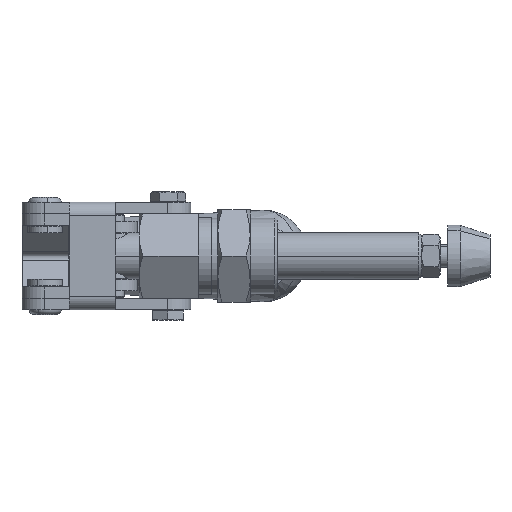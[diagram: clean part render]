
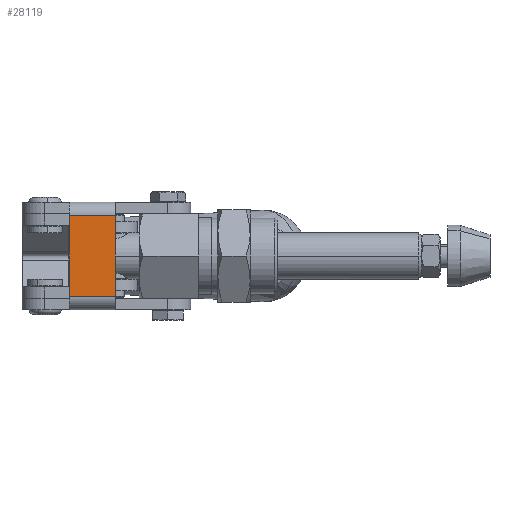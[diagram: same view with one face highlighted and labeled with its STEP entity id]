
A CAD part, front view. The second image highlights one B-rep face of the part: STEP entity #28119.
In plain terms, the highlighted planar face has unit normal (-0.007, -1, 0) as drawn and (0, -1, 0) by its records, which use the part's own axes.
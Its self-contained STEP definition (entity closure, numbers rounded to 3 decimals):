
#3874 = CARTESIAN_POINT ( 'NONE',  ( 0., -9.5, 0. ) ) ;
#4035 = DIRECTION ( 'NONE',  ( 0., 0., 1. ) ) ;
#4371 = PLANE ( 'NONE',  #30588 ) ;
#6217 = LINE ( 'NONE', #16421, #29517 ) ;
#6896 = VERTEX_POINT ( 'NONE', #20444 ) ;
#7643 = EDGE_LOOP ( 'NONE', ( #15225, #21923, #23336, #29068 ) ) ;
#7683 = VERTEX_POINT ( 'NONE', #22688 ) ;
#8081 = EDGE_CURVE ( 'NONE', #28227, #24981, #12752, .T. ) ;
#8555 = LINE ( 'NONE', #31442, #23124 ) ;
#9886 = CARTESIAN_POINT ( 'NONE',  ( 2.4, -9.5, -24.6 ) ) ;
#12048 = CARTESIAN_POINT ( 'NONE',  ( -9.6, -9.5, -3.5 ) ) ;
#12752 = LINE ( 'NONE', #30453, #22803 ) ;
#14914 = LINE ( 'NONE', #9886, #19920 ) ;
#15225 = ORIENTED_EDGE ( 'NONE', *, *, #8081, .F. ) ;
#16421 = CARTESIAN_POINT ( 'NONE',  ( -9.6, -9.5, 0. ) ) ;
#18628 = EDGE_CURVE ( 'NONE', #7683, #24981, #8555, .T. ) ;
#19920 = VECTOR ( 'NONE', #31253, 1000. ) ;
#20444 = CARTESIAN_POINT ( 'NONE',  ( -9.6, -9.5, -24.6 ) ) ;
#21923 = ORIENTED_EDGE ( 'NONE', *, *, #32652, .T. ) ;
#22081 = FACE_OUTER_BOUND ( 'NONE', #7643, .T. ) ;
#22688 = CARTESIAN_POINT ( 'NONE',  ( 2.4, -9.5, -24.6 ) ) ;
#22803 = VECTOR ( 'NONE', #27949, 1000. ) ;
#23124 = VECTOR ( 'NONE', #26276, 1000. ) ;
#23336 = ORIENTED_EDGE ( 'NONE', *, *, #28402, .T. ) ;
#24015 = CARTESIAN_POINT ( 'NONE',  ( 2.4, -9.5, -3.5 ) ) ;
#24425 = DIRECTION ( 'NONE',  ( 0., 1., 0. ) ) ;
#24981 = VERTEX_POINT ( 'NONE', #24015 ) ;
#26276 = DIRECTION ( 'NONE',  ( 0., 0., 1. ) ) ;
#26595 = DIRECTION ( 'NONE',  ( 0., 0., -1. ) ) ;
#27949 = DIRECTION ( 'NONE',  ( 1., 0., 0. ) ) ;
#28119 = ADVANCED_FACE ( 'NONE', ( #22081 ), #4371, .F. ) ;
#28227 = VERTEX_POINT ( 'NONE', #12048 ) ;
#28402 = EDGE_CURVE ( 'NONE', #6896, #7683, #14914, .T. ) ;
#29068 = ORIENTED_EDGE ( 'NONE', *, *, #18628, .T. ) ;
#29517 = VECTOR ( 'NONE', #26595, 1000. ) ;
#30453 = CARTESIAN_POINT ( 'NONE',  ( 2.4, -9.5, -3.5 ) ) ;
#30588 = AXIS2_PLACEMENT_3D ( 'NONE', #3874, #24425, #4035 ) ;
#31253 = DIRECTION ( 'NONE',  ( 1., 0., 0. ) ) ;
#31442 = CARTESIAN_POINT ( 'NONE',  ( 2.4, -9.5, 0. ) ) ;
#32652 = EDGE_CURVE ( 'NONE', #28227, #6896, #6217, .T. ) ;
